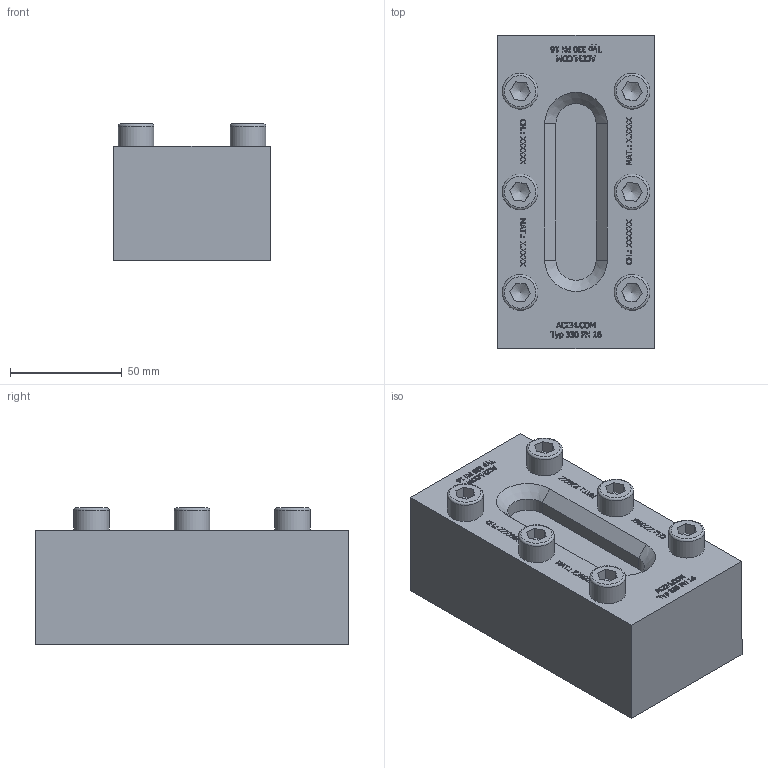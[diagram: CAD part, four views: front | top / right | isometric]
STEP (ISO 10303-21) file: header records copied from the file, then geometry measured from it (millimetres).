
FILE_DESCRIPTION(/* description */ (''),/* implementation_level */ '2;1');
FILE_NAME(/* name */ 'W:\Konstruktion_ACI\330\_Zeichnungen\STEP\ACI-330-140-16.stp',/* time_stamp */ '2022-03-01T17:05:57+01:00',/* author */ ('koslowksi'),/* organization */ (''),/* preprocessor_version */ 'ST-DEVELOPER v16.1',/* originating_system */ 'Autodesk Inventor 2016',/* authorisation */ '');
FILE_SCHEMA (('AUTOMOTIVE_DESIGN { 1 0 10303 214 3 1 1 }'));
Length unit declared in the file: centimetre
Products named in the file (1): ACI-330-140-16.stp
Bounding box: 70 x 140 x 60.9 mm (x, y, z)
Volume: 472130.3 mm3; surface area: 49031.5 mm2
Topology: 1 solids, 1 shells, 1186 faces, 3218 edges, 2142 vertices
Faces by surface type: plane 844, bspline 318, cylinder 10, cone 8, torus 6
Full cylindrical faces by diameter (mm): 16 x6
Entity records: 39446 total; most frequent: CARTESIAN_POINT 10711, ORIENTED_EDGE 6376, DIRECTION 4282, EDGE_CURVE 3188, LINE 2488, VECTOR 2488, VERTEX_POINT 2130, EDGE_LOOP 1312
